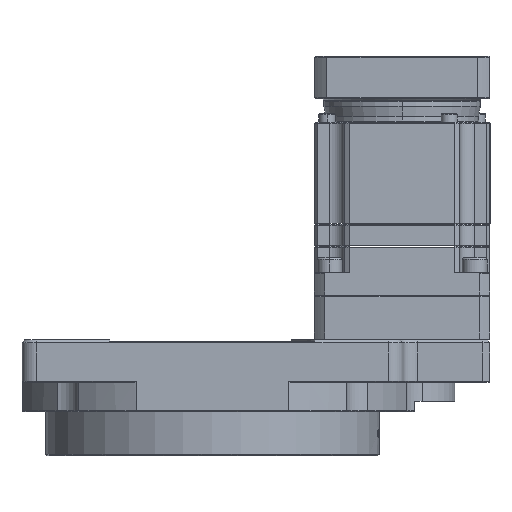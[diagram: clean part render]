
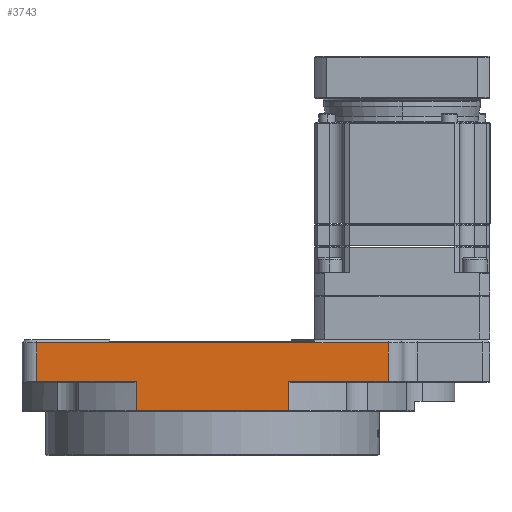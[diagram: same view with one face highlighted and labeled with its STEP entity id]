
A CAD part, left-side view. The second image highlights one B-rep face of the part: STEP entity #3743.
In plain terms, the highlighted planar face has unit normal (-1, 0, 0).
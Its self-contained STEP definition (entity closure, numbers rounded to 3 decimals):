
#303 = VERTEX_POINT ( 'NONE', #12008 ) ;
#411 = CARTESIAN_POINT ( 'NONE',  ( -65., 60., -24.5 ) ) ;
#863 = PLANE ( 'NONE',  #12969 ) ;
#1127 = CARTESIAN_POINT ( 'NONE',  ( -65., 60., -24.2 ) ) ;
#1142 = VERTEX_POINT ( 'NONE', #16272 ) ;
#1400 = VERTEX_POINT ( 'NONE', #15380 ) ;
#1499 = ORIENTED_EDGE ( 'NONE', *, *, #18408, .T. ) ;
#1983 = LINE ( 'NONE', #15602, #14814 ) ;
#2662 = CARTESIAN_POINT ( 'NONE',  ( -65., -60., -24.5 ) ) ;
#2886 = CARTESIAN_POINT ( 'NONE',  ( -65., -25.981, -24.2 ) ) ;
#3222 = DIRECTION ( 'NONE',  ( 0., 0., 1. ) ) ;
#3743 = ADVANCED_FACE ( 'NONE', ( #25088 ), #863, .T. ) ;
#3755 = VECTOR ( 'NONE', #18815, 1000. ) ;
#4027 = EDGE_CURVE ( 'NONE', #14338, #12921, #20577, .T. ) ;
#5144 = DIRECTION ( 'NONE',  ( 0., -1., 0. ) ) ;
#5183 = DIRECTION ( 'NONE',  ( 0., 0., 1. ) ) ;
#5190 = LINE ( 'NONE', #1127, #3755 ) ;
#5315 = EDGE_CURVE ( 'NONE', #19318, #1142, #25198, .T. ) ;
#6458 = DIRECTION ( 'NONE',  ( 0., 0., -1. ) ) ;
#7383 = ORIENTED_EDGE ( 'NONE', *, *, #10194, .T. ) ;
#7862 = LINE ( 'NONE', #14250, #20891 ) ;
#7931 = VECTOR ( 'NONE', #14320, 1000. ) ;
#8031 = VECTOR ( 'NONE', #5183, 1000. ) ;
#9266 = DIRECTION ( 'NONE',  ( 0., 0., 1. ) ) ;
#9283 = VECTOR ( 'NONE', #5144, 1000. ) ;
#9708 = DIRECTION ( 'NONE',  ( -1., 0., 0. ) ) ;
#10099 = CARTESIAN_POINT ( 'NONE',  ( -65., 60., -1. ) ) ;
#10194 = EDGE_CURVE ( 'NONE', #14338, #1400, #7862, .T. ) ;
#11148 = CARTESIAN_POINT ( 'NONE',  ( -65., 60., -1. ) ) ;
#11266 = CARTESIAN_POINT ( 'NONE',  ( -65., 60., -14.2 ) ) ;
#11483 = ORIENTED_EDGE ( 'NONE', *, *, #14186, .T. ) ;
#11929 = VERTEX_POINT ( 'NONE', #23401 ) ;
#12008 = CARTESIAN_POINT ( 'NONE',  ( -65., -60., -14.2 ) ) ;
#12508 = ORIENTED_EDGE ( 'NONE', *, *, #5315, .T. ) ;
#12921 = VERTEX_POINT ( 'NONE', #11148 ) ;
#12969 = AXIS2_PLACEMENT_3D ( 'NONE', #14070, #9708, #18564 ) ;
#13713 = LINE ( 'NONE', #11266, #9283 ) ;
#13750 = CARTESIAN_POINT ( 'NONE',  ( -65., -25.981, -14.5 ) ) ;
#14070 = CARTESIAN_POINT ( 'NONE',  ( -65., 60., -24.5 ) ) ;
#14186 = EDGE_CURVE ( 'NONE', #21958, #12921, #18959, .T. ) ;
#14250 = CARTESIAN_POINT ( 'NONE',  ( -65., 60., -14.2 ) ) ;
#14320 = DIRECTION ( 'NONE',  ( 0., 1., 0. ) ) ;
#14338 = VERTEX_POINT ( 'NONE', #17069 ) ;
#14814 = VECTOR ( 'NONE', #6458, 1000. ) ;
#15380 = CARTESIAN_POINT ( 'NONE',  ( -65., 25.981, -14.2 ) ) ;
#15602 = CARTESIAN_POINT ( 'NONE',  ( -65., 25.981, -14.5 ) ) ;
#15779 = EDGE_LOOP ( 'NONE', ( #12508, #1499, #28231, #11483, #18805, #7383, #26777, #20339 ) ) ;
#16272 = CARTESIAN_POINT ( 'NONE',  ( -65., -25.981, -14.2 ) ) ;
#17069 = CARTESIAN_POINT ( 'NONE',  ( -65., 60., -14.2 ) ) ;
#18408 = EDGE_CURVE ( 'NONE', #1142, #303, #13713, .T. ) ;
#18564 = DIRECTION ( 'NONE',  ( 0., 0., 1. ) ) ;
#18805 = ORIENTED_EDGE ( 'NONE', *, *, #4027, .F. ) ;
#18815 = DIRECTION ( 'NONE',  ( 0., -1., 0. ) ) ;
#18959 = LINE ( 'NONE', #10099, #7931 ) ;
#19318 = VERTEX_POINT ( 'NONE', #2886 ) ;
#19544 = VECTOR ( 'NONE', #9266, 1000. ) ;
#20339 = ORIENTED_EDGE ( 'NONE', *, *, #25035, .T. ) ;
#20577 = LINE ( 'NONE', #411, #8031 ) ;
#20891 = VECTOR ( 'NONE', #21081, 1000. ) ;
#20922 = LINE ( 'NONE', #2662, #22279 ) ;
#21081 = DIRECTION ( 'NONE',  ( 0., -1., 0. ) ) ;
#21958 = VERTEX_POINT ( 'NONE', #27224 ) ;
#22279 = VECTOR ( 'NONE', #3222, 1000. ) ;
#22938 = EDGE_CURVE ( 'NONE', #1400, #11929, #1983, .T. ) ;
#23401 = CARTESIAN_POINT ( 'NONE',  ( -65., 25.981, -24.2 ) ) ;
#24611 = EDGE_CURVE ( 'NONE', #303, #21958, #20922, .T. ) ;
#25035 = EDGE_CURVE ( 'NONE', #11929, #19318, #5190, .T. ) ;
#25088 = FACE_OUTER_BOUND ( 'NONE', #15779, .T. ) ;
#25198 = LINE ( 'NONE', #13750, #19544 ) ;
#26777 = ORIENTED_EDGE ( 'NONE', *, *, #22938, .T. ) ;
#27224 = CARTESIAN_POINT ( 'NONE',  ( -65., -60., -1. ) ) ;
#28231 = ORIENTED_EDGE ( 'NONE', *, *, #24611, .T. ) ;
